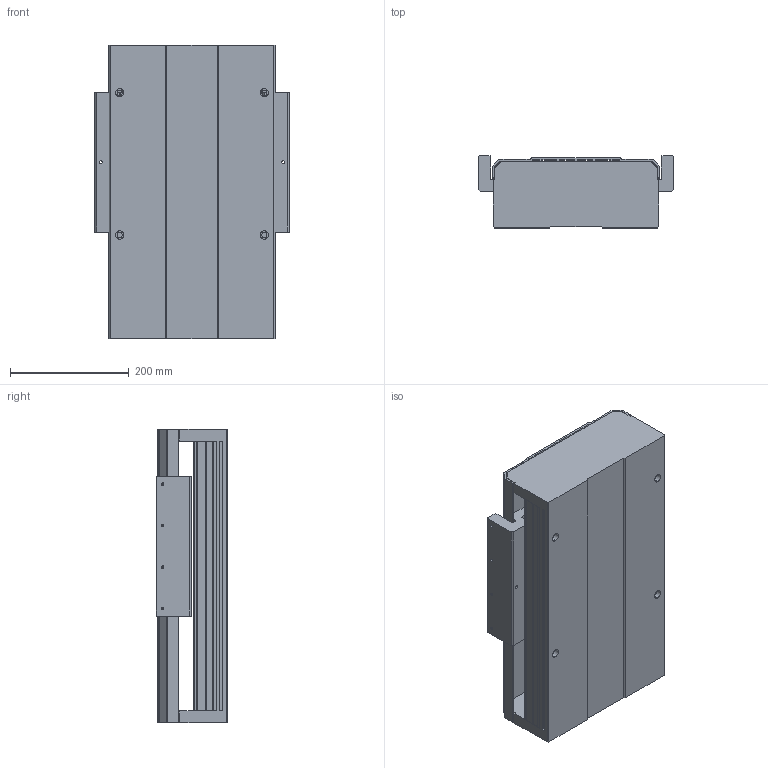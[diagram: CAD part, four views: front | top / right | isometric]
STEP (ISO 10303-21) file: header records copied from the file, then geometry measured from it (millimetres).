
FILE_DESCRIPTION (( 'STEP AP203' ), '1' );
FILE_NAME ('RF28-7-1-S.STEP', '2008-11-20T08:47:29', ( 'user' ), ( 'Robostar' ), 'SwSTEP 2.0', 'SolidWorks 2007', '' );
FILE_SCHEMA (( 'CONFIG_CONTROL_DESIGN' ));
Length unit declared in the file: millimetre
Products named in the file (1): RF28-7-1-S
Bounding box: 328 x 121 x 495 mm (x, y, z)
Volume: 6757633.9 mm3; surface area: 1358314.4 mm2
Topology: 3 solids, 6 shells, 452 faces, 1284 edges, 828 vertices
Faces by surface type: plane 264, cylinder 152, cone 36
Entity records: 14661 total; most frequent: CARTESIAN_POINT 2715, ORIENTED_EDGE 2504, DIRECTION 2450, EDGE_CURVE 1252, VECTOR 928, LINE 928, VERTEX_POINT 828, AXIS2_PLACEMENT_3D 761
